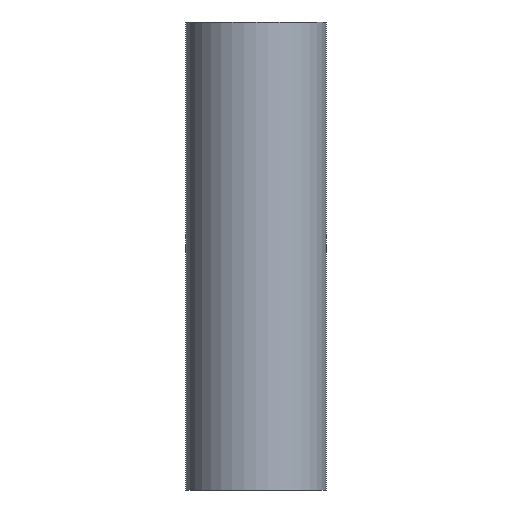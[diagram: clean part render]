
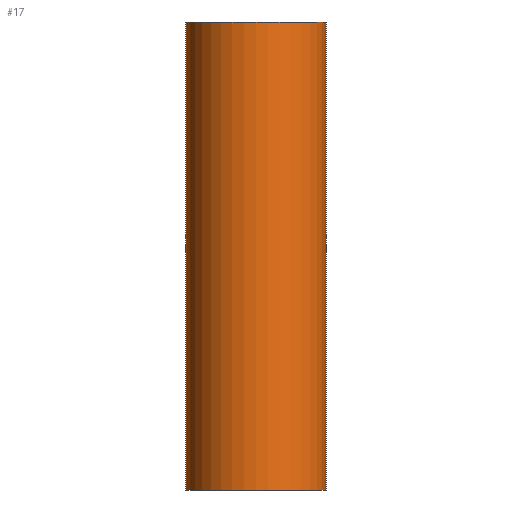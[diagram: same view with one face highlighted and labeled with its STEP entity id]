
A CAD part, front view. The second image highlights one B-rep face of the part: STEP entity #17.
In plain terms, the highlighted cylindrical face has radius 0.012 mm (diameter 0.024 mm), a full revolution.
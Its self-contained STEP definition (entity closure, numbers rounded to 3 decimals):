
#17 = ADVANCED_FACE('',(#18),#32,.T.);
#18 = FACE_BOUND('',#19,.F.);
#19 = EDGE_LOOP('',(#20,#50,#77,#78));
#20 = ORIENTED_EDGE('',*,*,#21,.T.);
#21 = EDGE_CURVE('',#22,#24,#26,.T.);
#22 = VERTEX_POINT('',#23);
#23 = CARTESIAN_POINT('',(0.012,0.,0.));
#24 = VERTEX_POINT('',#25);
#25 = CARTESIAN_POINT('',(0.012,0.,0.08));
#26 = SEAM_CURVE('',#27,(#31,#43),.PCURVE_S1.);
#27 = LINE('',#28,#29);
#28 = CARTESIAN_POINT('',(0.012,0.,0.));
#29 = VECTOR('',#30,1.);
#30 = DIRECTION('',(0.,0.,1.));
#31 = PCURVE('',#32,#37);
#32 = CYLINDRICAL_SURFACE('',#33,0.012);
#33 = AXIS2_PLACEMENT_3D('',#34,#35,#36);
#34 = CARTESIAN_POINT('',(0.,0.,0.));
#35 = DIRECTION('',(-0.,-0.,-1.));
#36 = DIRECTION('',(1.,0.,0.));
#37 = DEFINITIONAL_REPRESENTATION('',(#38),#42);
#38 = LINE('',#39,#40);
#39 = CARTESIAN_POINT('',(-0.,0.));
#40 = VECTOR('',#41,1.);
#41 = DIRECTION('',(-0.,-1.));
#42 = ( GEOMETRIC_REPRESENTATION_CONTEXT(2) 
PARAMETRIC_REPRESENTATION_CONTEXT() REPRESENTATION_CONTEXT('2D SPACE',''
  ) );
#43 = PCURVE('',#32,#44);
#44 = DEFINITIONAL_REPRESENTATION('',(#45),#49);
#45 = LINE('',#46,#47);
#46 = CARTESIAN_POINT('',(-6.283,0.));
#47 = VECTOR('',#48,1.);
#48 = DIRECTION('',(-0.,-1.));
#49 = ( GEOMETRIC_REPRESENTATION_CONTEXT(2) 
PARAMETRIC_REPRESENTATION_CONTEXT() REPRESENTATION_CONTEXT('2D SPACE',''
  ) );
#50 = ORIENTED_EDGE('',*,*,#51,.T.);
#51 = EDGE_CURVE('',#24,#24,#52,.T.);
#52 = SURFACE_CURVE('',#53,(#58,#65),.PCURVE_S1.);
#53 = CIRCLE('',#54,0.012);
#54 = AXIS2_PLACEMENT_3D('',#55,#56,#57);
#55 = CARTESIAN_POINT('',(0.,0.,0.08));
#56 = DIRECTION('',(0.,0.,1.));
#57 = DIRECTION('',(1.,0.,0.));
#58 = PCURVE('',#32,#59);
#59 = DEFINITIONAL_REPRESENTATION('',(#60),#64);
#60 = LINE('',#61,#62);
#61 = CARTESIAN_POINT('',(-0.,-0.08));
#62 = VECTOR('',#63,1.);
#63 = DIRECTION('',(-1.,0.));
#64 = ( GEOMETRIC_REPRESENTATION_CONTEXT(2) 
PARAMETRIC_REPRESENTATION_CONTEXT() REPRESENTATION_CONTEXT('2D SPACE',''
  ) );
#65 = PCURVE('',#66,#71);
#66 = PLANE('',#67);
#67 = AXIS2_PLACEMENT_3D('',#68,#69,#70);
#68 = CARTESIAN_POINT('',(0.,0.,0.08)
  );
#69 = DIRECTION('',(0.,0.,1.));
#70 = DIRECTION('',(1.,0.,-0.));
#71 = DEFINITIONAL_REPRESENTATION('',(#72),#76);
#72 = CIRCLE('',#73,0.012);
#73 = AXIS2_PLACEMENT_2D('',#74,#75);
#74 = CARTESIAN_POINT('',(0.,0.));
#75 = DIRECTION('',(1.,0.));
#76 = ( GEOMETRIC_REPRESENTATION_CONTEXT(2) 
PARAMETRIC_REPRESENTATION_CONTEXT() REPRESENTATION_CONTEXT('2D SPACE',''
  ) );
#77 = ORIENTED_EDGE('',*,*,#21,.F.);
#78 = ORIENTED_EDGE('',*,*,#79,.F.);
#79 = EDGE_CURVE('',#22,#22,#80,.T.);
#80 = SURFACE_CURVE('',#81,(#86,#93),.PCURVE_S1.);
#81 = CIRCLE('',#82,0.012);
#82 = AXIS2_PLACEMENT_3D('',#83,#84,#85);
#83 = CARTESIAN_POINT('',(0.,0.,0.));
#84 = DIRECTION('',(0.,0.,1.));
#85 = DIRECTION('',(1.,0.,0.));
#86 = PCURVE('',#32,#87);
#87 = DEFINITIONAL_REPRESENTATION('',(#88),#92);
#88 = LINE('',#89,#90);
#89 = CARTESIAN_POINT('',(-0.,0.));
#90 = VECTOR('',#91,1.);
#91 = DIRECTION('',(-1.,0.));
#92 = ( GEOMETRIC_REPRESENTATION_CONTEXT(2) 
PARAMETRIC_REPRESENTATION_CONTEXT() REPRESENTATION_CONTEXT('2D SPACE',''
  ) );
#93 = PCURVE('',#94,#99);
#94 = PLANE('',#95);
#95 = AXIS2_PLACEMENT_3D('',#96,#97,#98);
#96 = CARTESIAN_POINT('',(0.,0.,0.));
#97 = DIRECTION('',(0.,0.,1.));
#98 = DIRECTION('',(1.,0.,-0.));
#99 = DEFINITIONAL_REPRESENTATION('',(#100),#104);
#100 = CIRCLE('',#101,0.012);
#101 = AXIS2_PLACEMENT_2D('',#102,#103);
#102 = CARTESIAN_POINT('',(0.,0.));
#103 = DIRECTION('',(1.,0.));
#104 = ( GEOMETRIC_REPRESENTATION_CONTEXT(2) 
PARAMETRIC_REPRESENTATION_CONTEXT() REPRESENTATION_CONTEXT('2D SPACE',''
  ) );
